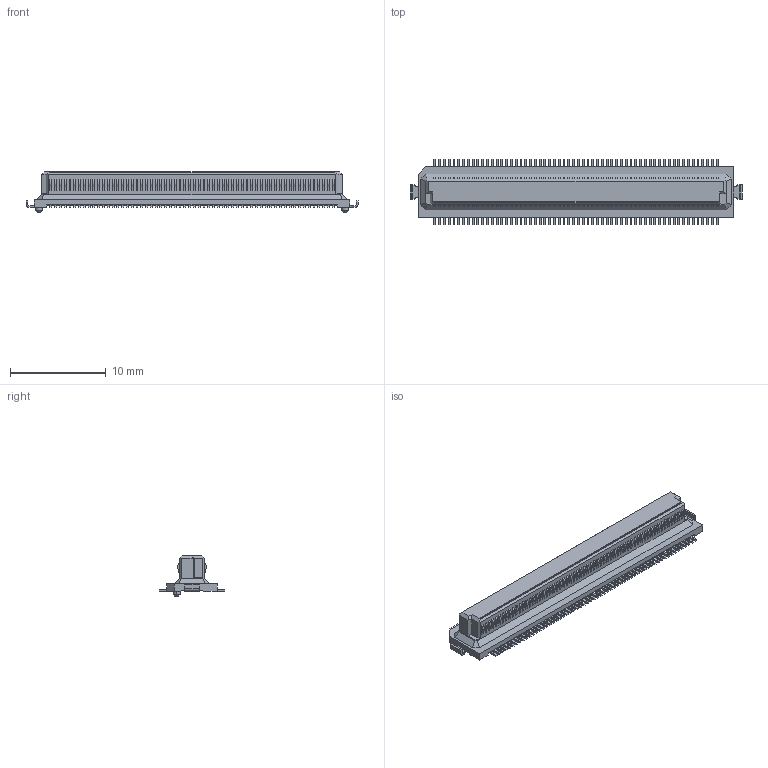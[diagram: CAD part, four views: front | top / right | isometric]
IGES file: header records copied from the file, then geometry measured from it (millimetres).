
Start section: Elysium IGES Interface
Global section: file name: 89HG:\森上\DY-3D(RE)\DY11-□□□S-1-□\修正　P39559_DY11-120S-1\修正　P39559_DY11-120S-1.igs; native system: Creo Elements/Direct Modeling 19.0F  14-Feb-2017; preprocessor: Creo Element/Direct IGES_3D V2.2; author: Unknown; organization: Unknown; date: 20200116.151217; units: millimetre
Bounding box: 34.7 x 6.8 x 4.23 mm (x, y, z)
Volume: 355 mm3; surface area: 739.3 mm2
Topology: 1 solids, 1 shells, 2030 faces, 5331 edges, 3546 vertices
Faces by surface type: bspline 2030
